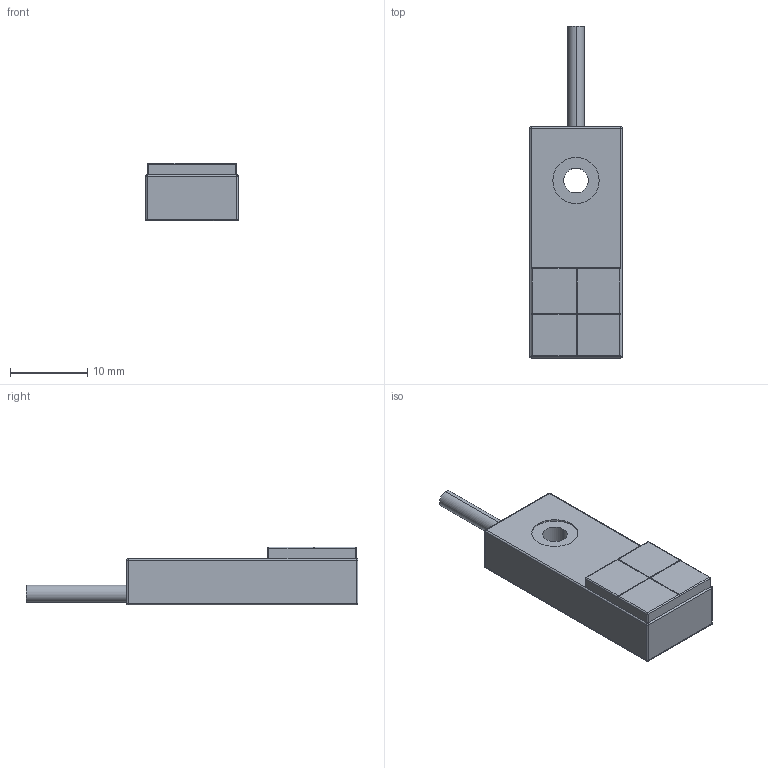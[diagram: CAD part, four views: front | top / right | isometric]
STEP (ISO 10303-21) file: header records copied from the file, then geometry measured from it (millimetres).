
FILE_DESCRIPTION (( 'STEP AP214' ), '1' );
FILE_NAME ('E12.STEP', '2015-09-23T09:35:05', ( '' ), ( '' ), 'SwSTEP 2.0', 'SolidWorks 2013', '' );
FILE_SCHEMA (( 'AUTOMOTIVE_DESIGN' ));
Length unit declared in the file: millimetre
Products named in the file (1): E12
Bounding box: 12 x 43.05 x 7.5 mm (x, y, z)
Volume: 2355.7 mm3; surface area: 1414.5 mm2
Topology: 1 solids, 1 shells, 59 faces, 143 edges, 81 vertices
Faces by surface type: plane 27, cylinder 25, sphere 7
Entity records: 1714 total; most frequent: CARTESIAN_POINT 310, DIRECTION 290, ORIENTED_EDGE 272, EDGE_CURVE 136, AXIS2_PLACEMENT_3D 105, VERTEX_POINT 81, LINE 80, VECTOR 80
